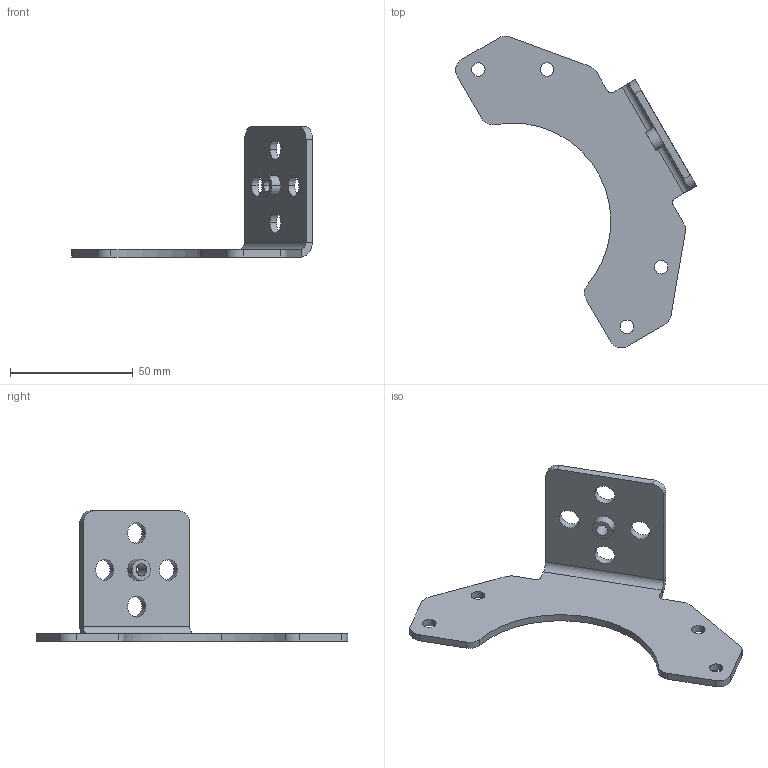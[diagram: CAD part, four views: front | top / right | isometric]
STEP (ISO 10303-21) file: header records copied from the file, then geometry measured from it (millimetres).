
FILE_DESCRIPTION (( 'STEP AP214' ), '1' );
FILE_NAME ('006005-A.STEP', '2013-03-08T15:36:33', ( ' ' ), ( '' ), 'SwSTEP 2.0', 'SolidWorks 2009', '' );
FILE_SCHEMA (( 'AUTOMOTIVE_DESIGN' ));
Length unit declared in the file: millimetre
Products named in the file (1): 006005-A
Bounding box: 98.11 x 127.07 x 53 mm (x, y, z)
Volume: 20887.9 mm3; surface area: 15989.8 mm2
Topology: 1 solids, 1 shells, 57 faces, 154 edges, 100 vertices
Faces by surface type: cylinder 37, plane 20
Entity records: 1877 total; most frequent: DIRECTION 344, CARTESIAN_POINT 312, ORIENTED_EDGE 308, EDGE_CURVE 154, AXIS2_PLACEMENT_3D 132, VERTEX_POINT 100, LINE 80, VECTOR 80
